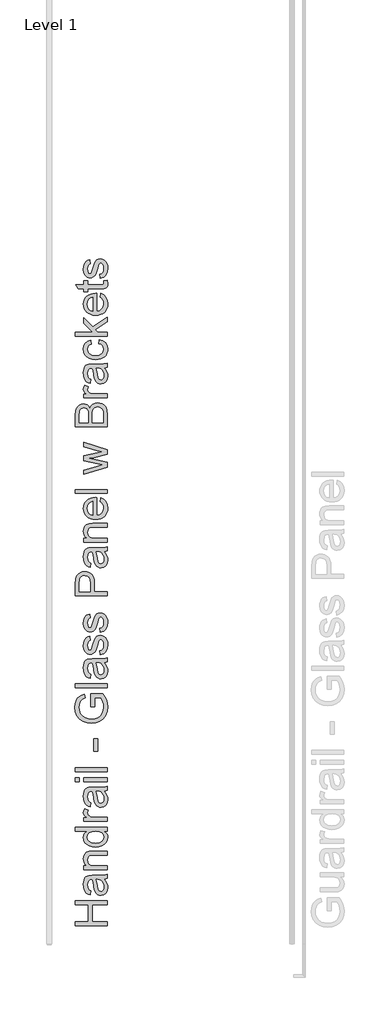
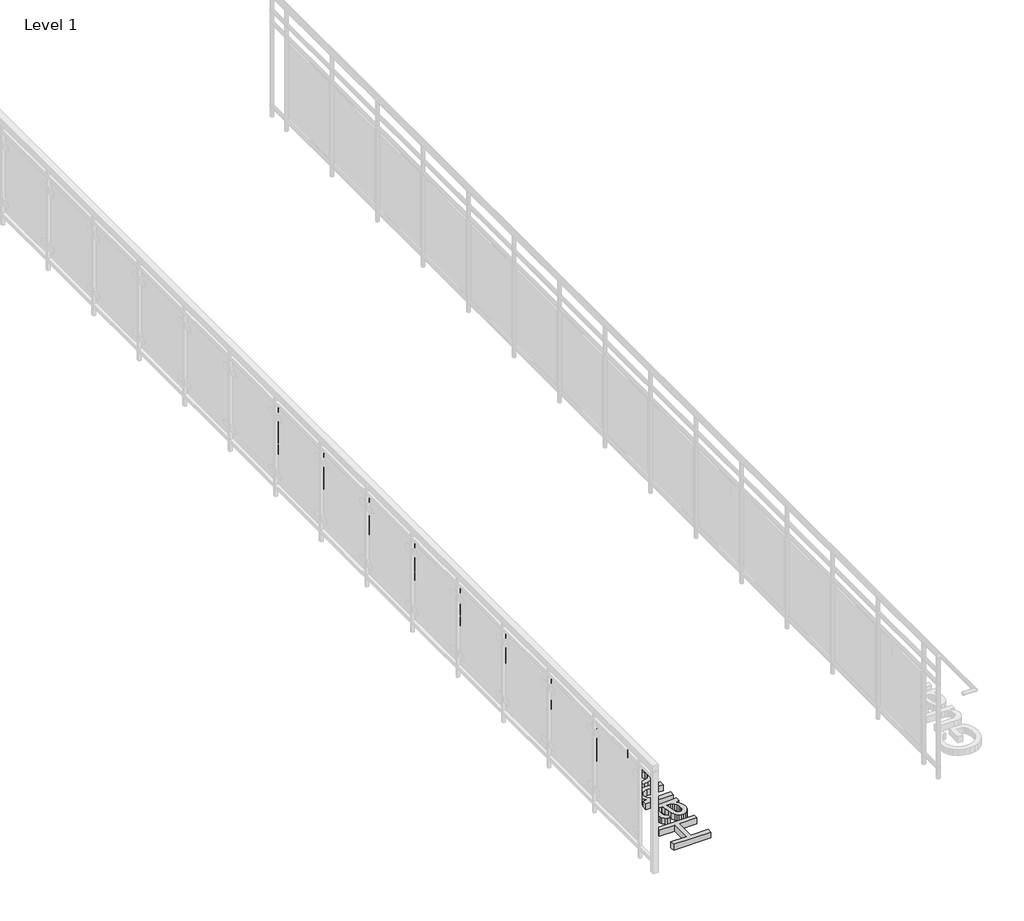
# One storey, part 8 of 14: 1 proxy.
"""IFC4 building model written with IfcOpenShell, lengths in millimetres."""

from ifc_helpers import new_model, si_unit, origin, origin_with_axes, place, context, project, spatial, polyline, outline, extrude, element, save

model = new_model("IFC4")

# Units and contexts
model_context = context("Model", 3, world=origin())
ifc_project = project(units=[si_unit("LENGTHUNIT", "METRE", prefix="MILLI")], contexts=[model_context])

# Site, building, storey
site = spatial("IfcSite", under=ifc_project)
building = spatial("IfcBuilding", under=site)
storey = spatial("IfcBuildingStorey", under=building, Name="Level 1", Elevation=0.0)

# Proxy
placement = place(None, origin())
element("IfcBuildingElementProxy", 1, Name="12\" Arial", ObjectType="12\" Arial", at=placement, inside=storey, context=model_context, shape_type="SweptSolid", body=[
    extrude(outline(polyline([(-14692.5753423, -14491.3688513), (-14992.6861115, -14491.3688513), (-14992.6861115, -14453.8550051), (-14870.7661115, -14453.8550051), (-14870.7661115, -14294.4211589), (-14992.6861115, -14294.4211589), (-14992.6861115, -14256.9073128), (-14692.5753423, -14256.9073128), (-14692.5753423, -14294.4211589), (-14833.2522653, -14294.4211589), (-14833.2522653, -14453.8550051), (-14692.5753423, -14453.8550051), (-14692.5753423, -14491.3688513)])), origin_with_axes(), (0.0, 0.0, 1.0), 50.8),
    extrude(outline(polyline([(-14720.7107269, -14055.2703897), (-14705.3425057, -14073.1938753), (-14695.2863038, -14091.6485628), (-14689.7361596, -14111.0557503), (-14687.8861115, -14131.8367359), (-14692.3372173, -14163.186808), (-14705.6905346, -14186.3124089), (-14725.9677942, -14200.572433), (-14751.1907269, -14205.3257743), (-14766.7421211, -14203.5306782), (-14780.8647653, -14198.1453897), (-14792.9541884, -14189.8384907), (-14802.4059192, -14179.2785628), (-14814.71515, -14153.0115436), (-14820.3568807, -14120.5532743), (-14826.2916884, -14082.196832), (-14833.2522653, -14055.4901974), (-14841.6049576, -14055.2703897), (-14858.3469769, -14057.8531301), (-14869.3007269, -14065.6013513), (-14877.4336115, -14082.9295243), (-14880.144573, -14107.0717359), (-14878.3403182, -14129.4188513), (-14872.9275538, -14145.0251974), (-14862.9171451, -14155.6675532), (-14847.3199576, -14163.1226974), (-14852.0091884, -14200.6365436), (-14872.524573, -14194.1247407), (-14888.6438038, -14184.4074089), (-14900.9713519, -14170.5778416), (-14910.1116884, -14151.729332), (-14915.7717365, -14128.6770003), (-14917.6584192, -14102.2359666), (-14915.9915442, -14076.8756541), (-14910.9909192, -14056.7724089), (-14903.4716644, -14041.6148368), (-14894.2489, -14031.0915436), (-14882.8463759, -14024.1126493), (-14868.7878423, -14019.5882743), (-14835.9632269, -14017.7565436), (-14789.2907269, -14017.7565436), (-14724.1177461, -14015.8515436), (-14692.5753423, -14008.378082), (-14692.5753423, -14045.8919282), (-14720.7107269, -14055.2703897)]), holes=[polyline([(-14795.7384192, -14055.2703897), (-14784.23515, -14115.7907743), (-14778.1538038, -14148.0658705), (-14768.2624576, -14162.683082), (-14753.8284192, -14167.8119282), (-14742.6731788, -14165.0185388), (-14733.5328423, -14156.6383705), (-14727.4331788, -14142.8545964), (-14725.3999576, -14123.8503897), (-14727.6438278, -14103.7013513), (-14734.3754384, -14085.8969282), (-14744.2942605, -14071.4628897), (-14756.0997653, -14061.4250051), (-14768.2624576, -14056.9738993), (-14785.1143807, -14055.4901974), (-14795.7384192, -14055.2703897)])]), origin_with_axes(), (0.0, 0.0, 1.0), 50.8),
    extrude(outline(polyline([(-14692.5753423, -13966.1750051), (-14912.9691884, -13966.1750051), (-14912.9691884, -13928.6611589), (-14882.1961115, -13928.6611589), (-14897.7108711, -13915.6283945), (-14908.7928423, -13899.9762551), (-14915.442025, -13881.7047407), (-14917.6584192, -13860.8138513), (-14915.8724817, -13842.3225291), (-14910.5146692, -13825.3881782), (-14902.2535634, -13811.2655339), (-14891.7577461, -13801.209332), (-14864.1718807, -13789.9625051), (-14827.9036115, -13787.9842359), (-14692.5753423, -13787.9842359), (-14692.5753423, -13825.498082), (-14822.8480346, -13825.498082), (-14856.0389961, -13829.8209666), (-14865.9211836, -13835.8015676), (-14873.5869769, -13845.0976013), (-14878.505174, -13857.0130099), (-14880.144573, -13870.8517359), (-14876.4627942, -13892.8233464), (-14865.4174576, -13911.5527936), (-14856.4007629, -13919.0377034), (-14844.0777942, -13924.3840676), (-14809.5130346, -13928.6611589), (-14692.5753423, -13928.6611589), (-14692.5753423, -13966.1750051)])), origin_with_axes(), (0.0, 0.0, 1.0), 50.8),
    extrude(outline(polyline([(-14692.5753423, -13600.4150051), (-14727.9643807, -13600.4150051), (-14710.4301379, -13611.6389354), (-14697.9056788, -13625.234957), (-14690.3910033, -13641.20307), (-14687.8861115, -13659.5432743), (-14691.5129384, -13683.7953897), (-14702.3934192, -13705.9959666), (-14719.7673855, -13724.7895243), (-14742.8746692, -13738.820582), (-14770.7810875, -13747.5579378), (-14802.5524576, -13750.4703897), (-14833.9300057, -13747.7869041), (-14862.2668807, -13739.7364474), (-14885.9511596, -13726.3281782), (-14903.3709192, -13707.5712551), (-14914.0865442, -13684.8852695), (-14917.6584192, -13659.6898128), (-14915.1031548, -13641.3358705), (-14907.4373615, -13625.1067359), (-14895.6868086, -13611.3504378), (-14880.8772653, -13600.4150051), (-14992.6861115, -13600.4150051), (-14992.6861115, -13562.9011589), (-14692.5753423, -13562.9011589), (-14692.5753423, -13600.4150051)]), holes=[polyline([(-14802.6989961, -13712.9565436), (-14768.7661836, -13708.7252455), (-14744.6331307, -13696.0313513), (-14730.2082509, -13677.5858224), (-14725.3999576, -13656.0996205), (-14729.9884432, -13634.6225772), (-14743.7539, -13616.6441397), (-14766.9527701, -13604.4722888), (-14799.8414961, -13600.4150051), (-14835.7983711, -13604.545558), (-14860.7282269, -13616.9372166), (-14875.2904865, -13635.3735868), (-14880.144573, -13657.6382743), (-14875.4828182, -13679.3442839), (-14861.4975538, -13697.1303897), (-14837.4744048, -13709.0000051), (-14802.6989961, -13712.9565436)])]), origin_with_axes(), (0.0, 0.0, 1.0), 50.8),
    extrude(outline(polyline([(-14692.5753423, -13506.6303897), (-14912.9691884, -13506.6303897), (-14912.9691884, -13473.8057743), (-14880.3643807, -13473.8057743), (-14899.2678423, -13461.6797166), (-14910.4047653, -13450.5061589), (-14915.8450057, -13439.2959666), (-14917.6584192, -13427.0600051), (-14914.7642846, -13408.3763513), (-14906.0818807, -13389.3996205), (-14872.4513038, -13401.9286589), (-14878.2212557, -13415.1171205), (-14880.144573, -13428.305582), (-14878.294525, -13439.5066157), (-14872.7443807, -13449.5170243), (-14863.9154384, -13457.6041157), (-14852.2289961, -13463.0351974), (-14831.2739961, -13467.596207), (-14808.4139961, -13469.1165436), (-14692.5753423, -13469.1165436), (-14692.5753423, -13506.6303897)])), origin_with_axes(), (0.0, 0.0, 1.0), 50.8),
    extrude(outline(polyline([(-14720.7107269, -13225.2765436), (-14705.3425057, -13243.2000291), (-14695.2863038, -13261.6547166), (-14689.7361596, -13281.0619041), (-14687.8861115, -13301.8428897), (-14692.3372173, -13333.1929618), (-14705.6905346, -13356.3185628), (-14725.9677942, -13370.5785868), (-14751.1907269, -13375.3319282), (-14766.7421211, -13373.536832), (-14780.8647653, -13368.1515436), (-14792.9541884, -13359.8446445), (-14802.4059192, -13349.2847166), (-14814.71515, -13323.0176974), (-14820.3568807, -13290.5594282), (-14826.2916884, -13252.2029859), (-14833.2522653, -13225.4963513), (-14841.6049576, -13225.2765436), (-14858.3469769, -13227.8592839), (-14869.3007269, -13235.6075051), (-14877.4336115, -13252.9356782), (-14880.144573, -13277.0778897), (-14878.3403182, -13299.4250051), (-14872.9275538, -13315.0313513), (-14862.9171451, -13325.673707), (-14847.3199576, -13333.1288513), (-14852.0091884, -13370.6426974), (-14872.524573, -13364.1308945), (-14888.6438038, -13354.4135628), (-14900.9713519, -13340.5839955), (-14910.1116884, -13321.7354859), (-14915.7717365, -13298.6831541), (-14917.6584192, -13272.2421205), (-14915.9915442, -13246.881808), (-14910.9909192, -13226.7785628), (-14903.4716644, -13211.6209907), (-14894.2489, -13201.0976974), (-14882.8463759, -13194.1188032), (-14868.7878423, -13189.5944282), (-14835.9632269, -13187.7626974), (-14789.2907269, -13187.7626974), (-14724.1177461, -13185.8576974), (-14692.5753423, -13178.3842359), (-14692.5753423, -13215.898082), (-14720.7107269, -13225.2765436)]), holes=[polyline([(-14795.7384192, -13225.2765436), (-14784.23515, -13285.7969282), (-14778.1538038, -13318.0720243), (-14768.2624576, -13332.6892359), (-14753.8284192, -13337.818082), (-14742.6731788, -13335.0246926), (-14733.5328423, -13326.6445243), (-14727.4331788, -13312.8607503), (-14725.3999576, -13293.8565436), (-14727.6438278, -13273.7075051), (-14734.3754384, -13255.903082), (-14744.2942605, -13241.4690436), (-14756.0997653, -13231.4311589), (-14768.2624576, -13226.9800532), (-14785.1143807, -13225.4963513), (-14795.7384192, -13225.2765436)])]), origin_with_axes(), (0.0, 0.0, 1.0), 50.8),
    extrude(outline(polyline([(-14955.1722653, -13136.1811589), (-14992.6861115, -13136.1811589), (-14992.6861115, -13098.6673128), (-14955.1722653, -13098.6673128), (-14955.1722653, -13136.1811589)])), origin_with_axes(), (0.0, 0.0, 1.0), 50.8),
    extrude(outline(polyline([(-14692.5753423, -13136.1811589), (-14912.9691884, -13136.1811589), (-14912.9691884, -13098.6673128), (-14692.5753423, -13098.6673128), (-14692.5753423, -13136.1811589)])), origin_with_axes(), (0.0, 0.0, 1.0), 50.8),
    extrude(outline(polyline([(-14692.5753423, -13042.3965436), (-14992.6861115, -13042.3965436), (-14992.6861115, -13004.8826974), (-14692.5753423, -13004.8826974), (-14692.5753423, -13042.3965436)])), origin_with_axes(), (0.0, 0.0, 1.0), 50.8),
    extrude(outline(polyline([(-14781.6707269, -12850.138082), (-14819.184573, -12850.138082), (-14819.184573, -12732.9073128), (-14781.6707269, -12732.9073128), (-14781.6707269, -12850.138082)])), origin_with_axes(), (0.0, 0.0, 1.0), 50.8),
    extrude(outline(polyline([(-14809.8061115, -12428.1073128), (-14847.3199576, -12428.1073128), (-14847.3199576, -12306.1873128), (-14735.1447653, -12306.1873128), (-14714.5377942, -12335.815558), (-14699.7557269, -12366.3779859), (-14690.8535153, -12397.8013272), (-14687.8861115, -12430.0123128), (-14692.6028182, -12472.0963272), (-14706.7529384, -12510.1322166), (-14729.8419048, -12541.7295724), (-14761.37515, -12564.4979859), (-14799.2003903, -12578.2634426), (-14841.1653423, -12582.8519282), (-14883.4325298, -12578.2817599), (-14922.7506307, -12564.5712551), (-14955.7309432, -12542.2882503), (-14978.9847653, -12512.000582), (-14992.777698, -12475.1095243), (-14997.3753423, -12433.0163513), (-14994.710174, -12402.1150532), (-14986.7146692, -12374.3276974), (-14973.965823, -12350.9273368), (-14957.0406307, -12333.1870243), (-14935.1239721, -12320.0626734), (-14907.4007269, -12310.5101974), (-14897.6559192, -12345.0932743), (-14917.4294528, -12352.8140195), (-14932.3489, -12362.2016397), (-14943.5957269, -12374.6207743), (-14952.3514, -12391.4360628), (-14957.9839721, -12411.4843561), (-14959.8614961, -12433.6025051), (-14957.8374336, -12459.4940195), (-14951.7652461, -12481.6304859), (-14942.4051019, -12499.9294763), (-14930.5171692, -12514.3085628), (-14901.6124576, -12533.6150051), (-14873.2939, -12542.4073128), (-14842.7039961, -12545.338082), (-14806.829549, -12541.8120003), (-14777.3112076, -12531.2337551), (-14754.3596211, -12513.9238993), (-14738.1854384, -12490.2029859), (-14728.5963278, -12462.4431061), (-14725.3999576, -12433.0163513), (-14727.8086836, -12407.0332503), (-14735.0348615, -12381.6912551), (-14744.9903182, -12359.6830099), (-14755.5868807, -12343.7011589), (-14809.8061115, -12343.7011589), (-14809.8061115, -12428.1073128)])), origin_with_axes(), (0.0, 0.0, 1.0), 50.8),
    extrude(outline(polyline([(-14692.5753423, -12249.9165436), (-14992.6861115, -12249.9165436), (-14992.6861115, -12212.4026974), (-14692.5753423, -12212.4026974), (-14692.5753423, -12249.9165436)])), origin_with_axes(), (0.0, 0.0, 1.0), 50.8),
    extrude(outline(polyline([(-14720.7107269, -12015.4550051), (-14705.3425057, -12033.3784907), (-14695.2863038, -12051.8331782), (-14689.7361596, -12071.2403657), (-14687.8861115, -12092.0213513), (-14692.3372173, -12123.3714234), (-14705.6905346, -12146.4970243), (-14725.9677942, -12160.7570484), (-14751.1907269, -12165.5103897), (-14766.7421211, -12163.7152936), (-14780.8647653, -12158.3300051), (-14792.9541884, -12150.0231061), (-14802.4059192, -12139.4631782), (-14814.71515, -12113.1961589), (-14820.3568807, -12080.7378897), (-14826.2916884, -12042.3814474), (-14833.2522653, -12015.6748128), (-14841.6049576, -12015.4550051), (-14858.3469769, -12018.0377455), (-14869.3007269, -12025.7859666), (-14877.4336115, -12043.1141397), (-14880.144573, -12067.2563513), (-14878.3403182, -12089.6034666), (-14872.9275538, -12105.2098128), (-14862.9171451, -12115.8521686), (-14847.3199576, -12123.3073128), (-14852.0091884, -12160.8211589), (-14872.524573, -12154.3093561), (-14888.6438038, -12144.5920243), (-14900.9713519, -12130.762457), (-14910.1116884, -12111.9139474), (-14915.7717365, -12088.8616157), (-14917.6584192, -12062.420582), (-14915.9915442, -12037.0602695), (-14910.9909192, -12016.9570243), (-14903.4716644, -12001.7994522), (-14894.2489, -11991.2761589), (-14882.8463759, -11984.2972647), (-14868.7878423, -11979.7728897), (-14835.9632269, -11977.9411589), (-14789.2907269, -11977.9411589), (-14724.1177461, -11976.0361589), (-14692.5753423, -11968.5626974), (-14692.5753423, -12006.0765436), (-14720.7107269, -12015.4550051)]), holes=[polyline([(-14795.7384192, -12015.4550051), (-14784.23515, -12075.9753897), (-14778.1538038, -12108.2504859), (-14768.2624576, -12122.8676974), (-14753.8284192, -12127.9965436), (-14742.6731788, -12125.2031541), (-14733.5328423, -12116.8229859), (-14727.4331788, -12103.0392118), (-14725.3999576, -12084.0350051), (-14727.6438278, -12063.8859666), (-14734.3754384, -12046.0815436), (-14744.2942605, -12031.6475051), (-14756.0997653, -12021.6096205), (-14768.2624576, -12017.1585147), (-14785.1143807, -12015.6748128), (-14795.7384192, -12015.4550051)])]), origin_with_axes(), (0.0, 0.0, 1.0), 50.8),
    extrude(outline(polyline([(-14758.224573, -11940.4273128), (-14762.9138038, -11902.9134666), (-14746.8678423, -11896.9969763), (-14735.0714961, -11885.5486589), (-14727.8178423, -11868.4952455), (-14725.3999576, -11845.7634666), (-14727.6163519, -11823.3064474), (-14734.2655346, -11807.5169282), (-14743.9004384, -11798.1751013), (-14755.0739961, -11795.0611589), (-14764.6356307, -11798.1934186), (-14771.9259192, -11807.5901974), (-14782.6232269, -11846.203082), (-14800.9771692, -11902.6936589), (-14810.1999336, -11916.9903176), (-14822.4084192, -11927.3487551), (-14836.8241403, -11933.6407503), (-14852.6686115, -11935.738082), (-14867.2033951, -11934.0528897), (-14880.620823, -11928.9973128), (-14892.3896932, -11921.0292839), (-14901.9788038, -11910.6067359), (-14913.0790923, -11886.7576013), (-14917.6584192, -11854.4825051), (-14915.8175298, -11830.0655339), (-14910.2948615, -11808.8357743), (-14901.630775, -11791.7640436), (-14890.3656307, -11779.8211589), (-14875.6659913, -11771.908082), (-14856.6984192, -11766.9257743), (-14852.0091884, -11804.4396205), (-14863.8146932, -11809.1746445), (-14872.7077461, -11818.5439474), (-14878.2853663, -11832.6391157), (-14880.144573, -11851.5517359), (-14878.3677942, -11873.0928897), (-14873.0374576, -11887.4536589), (-14865.3441884, -11895.5315916), (-14856.4786115, -11898.2242359), (-14845.5614961, -11893.7548128), (-14837.282073, -11879.7603897), (-14829.2957269, -11847.4486589), (-14811.6378423, -11792.386832), (-14803.1935634, -11777.8428897), (-14791.6353423, -11766.8158705), (-14776.9265442, -11759.8644522), (-14759.0305346, -11757.5473128), (-14740.5300538, -11760.267433), (-14723.1286115, -11768.4277936), (-14708.1908471, -11781.7170003), (-14697.0814, -11799.8236589), (-14690.1849336, -11821.6945243), (-14687.8861115, -11846.2763513), (-14692.3189, -11884.1015916), (-14705.6172653, -11911.7057743), (-14727.6346692, -11930.1329859), (-14758.224573, -11940.4273128)])), origin_with_axes(), (0.0, 0.0, 1.0), 50.8),
    extrude(outline(polyline([(-14758.224573, -11729.4119282), (-14762.9138038, -11691.898082), (-14746.8678423, -11685.9815916), (-14735.0714961, -11674.5332743), (-14727.8178423, -11657.4798609), (-14725.3999576, -11634.748082), (-14727.6163519, -11612.2910628), (-14734.2655346, -11596.5015436), (-14743.9004384, -11587.1597166), (-14755.0739961, -11584.0457743), (-14764.6356307, -11587.1780339), (-14771.9259192, -11596.5748128), (-14782.6232269, -11635.1876974), (-14800.9771692, -11691.6782743), (-14810.1999336, -11705.974933), (-14822.4084192, -11716.3333705), (-14836.8241403, -11722.6253657), (-14852.6686115, -11724.7226974), (-14867.2033951, -11723.0375051), (-14880.620823, -11717.9819282), (-14892.3896932, -11710.0138993), (-14901.9788038, -11699.5913513), (-14913.0790923, -11675.7422166), (-14917.6584192, -11643.4671205), (-14915.8175298, -11619.0501493), (-14910.2948615, -11597.8203897), (-14901.630775, -11580.7486589), (-14890.3656307, -11568.8057743), (-14875.6659913, -11560.8926974), (-14856.6984192, -11555.9103897), (-14852.0091884, -11593.4242359), (-14863.8146932, -11598.1592599), (-14872.7077461, -11607.5285628), (-14878.2853663, -11621.6237311), (-14880.144573, -11640.5363513), (-14878.3677942, -11662.0775051), (-14873.0374576, -11676.4382743), (-14865.3441884, -11684.516207), (-14856.4786115, -11687.2088513), (-14845.5614961, -11682.7394282), (-14837.282073, -11668.7450051), (-14829.2957269, -11636.4332743), (-14811.6378423, -11581.3714474), (-14803.1935634, -11566.8275051), (-14791.6353423, -11555.8004859), (-14776.9265442, -11548.8490676), (-14759.0305346, -11546.5319282), (-14740.5300538, -11549.2520484), (-14723.1286115, -11557.4124089), (-14708.1908471, -11570.7016157), (-14697.0814, -11588.8082743), (-14690.1849336, -11610.6791397), (-14687.8861115, -11635.2609666), (-14692.3189, -11673.086207), (-14705.6172653, -11700.6903897), (-14727.6346692, -11719.1176013), (-14758.224573, -11729.4119282)])), origin_with_axes(), (0.0, 0.0, 1.0), 50.8),
    extrude(outline(polyline([(-14692.5753423, -11382.4088513), (-14992.6861115, -11382.4088513), (-14992.6861115, -11271.1861589), (-14989.8286115, -11226.3453897), (-14984.4891163, -11206.3520484), (-14975.7975538, -11189.8939474), (-14963.3601019, -11176.6413753), (-14946.7829384, -11166.2646205), (-14927.2292125, -11159.5604859), (-14905.862073, -11157.3257743), (-14887.4394408, -11158.8346626), (-14870.4913519, -11163.3613272), (-14855.0178062, -11170.9057683), (-14841.0188038, -11181.4679859), (-14829.4147894, -11195.9684246), (-14821.1262076, -11215.3275291), (-14816.1530586, -11239.5452996), (-14814.4953423, -11268.6217359), (-14814.4953423, -11344.8950051), (-14692.5753423, -11344.8950051), (-14692.5753423, -11382.4088513)]), holes=[polyline([(-14852.0091884, -11344.8950051), (-14852.0091884, -11266.4236589), (-14855.4528423, -11233.1594282), (-14865.7838038, -11211.1786589), (-14882.3609673, -11198.9243801), (-14904.5432269, -11194.8396205), (-14921.39515, -11197.2483464), (-14935.6093807, -11204.4745243), (-14946.3066884, -11215.6206061), (-14952.6078423, -11229.7890436), (-14955.1722653, -11267.3028897), (-14955.1722653, -11344.8950051), (-14852.0091884, -11344.8950051)])]), origin_with_axes(), (0.0, 0.0, 1.0), 50.8),
    extrude(outline(polyline([(-14720.7107269, -10969.7565436), (-14705.3425057, -10987.6800291), (-14695.2863038, -11006.1347166), (-14689.7361596, -11025.5419041), (-14687.8861115, -11046.3228897), (-14692.3372173, -11077.6729618), (-14705.6905346, -11100.7985628), (-14725.9677942, -11115.0585868), (-14751.1907269, -11119.8119282), (-14766.7421211, -11118.016832), (-14780.8647653, -11112.6315436), (-14792.9541884, -11104.3246445), (-14802.4059192, -11093.7647166), (-14814.71515, -11067.4976974), (-14820.3568807, -11035.0394282), (-14826.2916884, -10996.6829859), (-14833.2522653, -10969.9763513), (-14841.6049576, -10969.7565436), (-14858.3469769, -10972.3392839), (-14869.3007269, -10980.0875051), (-14877.4336115, -10997.4156782), (-14880.144573, -11021.5578897), (-14878.3403182, -11043.9050051), (-14872.9275538, -11059.5113513), (-14862.9171451, -11070.153707), (-14847.3199576, -11077.6088513), (-14852.0091884, -11115.1226974), (-14872.524573, -11108.6108945), (-14888.6438038, -11098.8935628), (-14900.9713519, -11085.0639955), (-14910.1116884, -11066.2154859), (-14915.7717365, -11043.1631541), (-14917.6584192, -11016.7221205), (-14915.9915442, -10991.361808), (-14910.9909192, -10971.2585628), (-14903.4716644, -10956.1009907), (-14894.2489, -10945.5776974), (-14882.8463759, -10938.5988032), (-14868.7878423, -10934.0744282), (-14835.9632269, -10932.2426974), (-14789.2907269, -10932.2426974), (-14724.1177461, -10930.3376974), (-14692.5753423, -10922.8642359), (-14692.5753423, -10960.378082), (-14720.7107269, -10969.7565436)]), holes=[polyline([(-14795.7384192, -10969.7565436), (-14784.23515, -11030.2769282), (-14778.1538038, -11062.5520243), (-14768.2624576, -11077.1692359), (-14753.8284192, -11082.298082), (-14742.6731788, -11079.5046926), (-14733.5328423, -11071.1245243), (-14727.4331788, -11057.3407503), (-14725.3999576, -11038.3365436), (-14727.6438278, -11018.1875051), (-14734.3754384, -11000.383082), (-14744.2942605, -10985.9490436), (-14756.0997653, -10975.9111589), (-14768.2624576, -10971.4600532), (-14785.1143807, -10969.9763513), (-14795.7384192, -10969.7565436)])]), origin_with_axes(), (0.0, 0.0, 1.0), 50.8),
    extrude(outline(polyline([(-14692.5753423, -10880.6611589), (-14912.9691884, -10880.6611589), (-14912.9691884, -10843.1473128), (-14882.1961115, -10843.1473128), (-14897.7108711, -10830.1145484), (-14908.7928423, -10814.4624089), (-14915.442025, -10796.1908945), (-14917.6584192, -10775.3000051), (-14915.8724817, -10756.808683), (-14910.5146692, -10739.874332), (-14902.2535634, -10725.7516878), (-14891.7577461, -10715.6954859), (-14864.1718807, -10704.4486589), (-14827.9036115, -10702.4703897), (-14692.5753423, -10702.4703897), (-14692.5753423, -10739.9842359), (-14822.8480346, -10739.9842359), (-14856.0389961, -10744.3071205), (-14865.9211836, -10750.2877214), (-14873.5869769, -10759.5837551), (-14878.505174, -10771.4991638), (-14880.144573, -10785.3378897), (-14876.4627942, -10807.3095003), (-14865.4174576, -10826.0389474), (-14856.4007629, -10833.5238573), (-14844.0777942, -10838.8702214), (-14809.5130346, -10843.1473128), (-14692.5753423, -10843.1473128), (-14692.5753423, -10880.6611589)])), origin_with_axes(), (0.0, 0.0, 1.0), 50.8),
    extrude(outline(polyline([(-14758.224573, -10496.5838513), (-14753.5353423, -10459.8026974), (-14725.8212557, -10473.0552695), (-14705.1043807, -10494.2026013), (-14692.1906788, -10522.7684426), (-14687.8861115, -10558.2765436), (-14689.7430286, -10581.5532623), (-14695.3137798, -10602.2930339), (-14704.5983651, -10620.4958585), (-14717.5967846, -10636.1617359), (-14733.9472713, -10648.7594642), (-14753.2880586, -10657.7578416), (-14775.6191463, -10663.1568681), (-14800.9405346, -10664.9565436), (-14827.1205466, -10663.1385508), (-14850.195775, -10657.6845724), (-14870.1662197, -10648.5946085), (-14887.0318807, -10635.8686589), (-14900.4309913, -10620.2439955), (-14910.0017846, -10602.4578897), (-14915.7442605, -10582.5103416), (-14917.6584192, -10560.4013513), (-14915.7488399, -10539.0044462), (-14910.0201019, -10519.6545003), (-14900.4722052, -10502.3515135), (-14887.10515, -10487.0954859), (-14870.2761235, -10474.6420063), (-14850.3423134, -10465.7466638), (-14827.3037197, -10460.4094582), (-14801.1603423, -10458.6303897), (-14791.0491884, -10458.8501974), (-14791.0491884, -10627.4426974), (-14762.9687557, -10620.9492118), (-14742.32515, -10605.8649089), (-14729.6312557, -10584.0947888), (-14725.3999576, -10557.5438513), (-14727.3599096, -10537.5779859), (-14733.2397653, -10520.7626974), (-14743.4058711, -10507.0979859), (-14758.224573, -10496.5838513)]), holes=[polyline([(-14828.5630346, -10627.4426974), (-14828.5630346, -10496.1442359), (-14848.3823615, -10501.2181301), (-14862.5599576, -10511.1644282), (-14875.7484192, -10533.0352936), (-14880.144573, -10560.5478897), (-14876.6368086, -10585.834933), (-14866.1135153, -10606.7441397), (-14849.7103663, -10621.2789234), (-14828.5630346, -10627.4426974)])]), origin_with_axes(), (0.0, 0.0, 1.0), 50.8),
    extrude(outline(polyline([(-14692.5753423, -10421.1165436), (-14992.6861115, -10421.1165436), (-14992.6861115, -10383.6026974), (-14692.5753423, -10383.6026974), (-14692.5753423, -10421.1165436)])), origin_with_axes(), (0.0, 0.0, 1.0), 50.8),
    extrude(outline(polyline([(-14692.5753423, -10173.5398128), (-14912.9691884, -10240.5811589), (-14912.9691884, -10201.6019282), (-14784.3816884, -10163.5751974), (-14738.4418807, -10152.2184666), (-14782.6964961, -10142.9132743), (-14912.9691884, -10112.653082), (-14912.9691884, -10067.9588513), (-14783.0628423, -10037.8451974), (-14742.984573, -10029.5657743), (-14785.2609192, -10017.6961589), (-14912.9691884, -9979.5961589), (-14912.9691884, -9940.4703897), (-14692.5753423, -10008.0246205), (-14692.5753423, -10053.3782743), (-14821.8222653, -10082.173082), (-14862.1203423, -10090.5257743), (-14692.5753423, -10127.6732743), (-14692.5753423, -10173.5398128)])), origin_with_axes(), (0.0, 0.0, 1.0), 50.8),
    extrude(outline(polyline([(-14692.5753423, -9792.7596205), (-14992.6861115, -9792.7596205), (-14992.6861115, -9678.2398128), (-14990.4788759, -9646.7432022), (-14983.8571692, -9622.1522166), (-14972.6561355, -9603.303707), (-14956.7109192, -9589.0345243), (-14937.9539961, -9580.0498849), (-14918.3178423, -9577.0550051), (-14900.2478182, -9579.5736349), (-14883.2585153, -9587.1295243), (-14868.3940201, -9599.7776253), (-14856.6984192, -9617.5728897), (-14845.5981307, -9596.3156541), (-14828.709573, -9580.6085628), (-14807.1501019, -9570.9095484), (-14782.037073, -9567.6765436), (-14761.109549, -9569.8837791), (-14741.7023615, -9576.5054859), (-14725.1984673, -9586.3876734), (-14712.980823, -9598.3763513), (-14704.1335634, -9613.0576734), (-14697.740823, -9631.0177936), (-14692.5753423, -9679.1190436), (-14692.5753423, -9792.7596205)]), holes=[polyline([(-14870.7661115, -9755.2457743), (-14870.7661115, -9686.7390436), (-14873.9899576, -9646.7340436), (-14879.5492605, -9632.7304618), (-14887.8744769, -9622.6651013), (-14898.8373855, -9616.5929138), (-14912.3097653, -9614.5688513), (-14925.388323, -9616.4555339), (-14936.7816884, -9622.115582), (-14945.6747413, -9631.2925532), (-14951.2523615, -9643.7300051), (-14955.1722653, -9691.9411589), (-14955.1722653, -9755.2457743), (-14870.7661115, -9755.2457743)]), polyline([(-14730.0891884, -9755.2457743), (-14730.0891884, -9678.313082), (-14731.554573, -9650.4707743), (-14739.7240923, -9626.9147166), (-14756.3928423, -9611.3083705), (-14768.1708711, -9606.7198849), (-14781.6707269, -9605.1903897), (-14797.3503423, -9606.9854859), (-14810.8318807, -9612.3707743), (-14821.3734913, -9621.7767118), (-14828.233323, -9635.6337551), (-14831.9975298, -9655.2607503), (-14833.2522653, -9681.9765436), (-14833.2522653, -9755.2457743), (-14730.0891884, -9755.2457743)])]), origin_with_axes(), (0.0, 0.0, 1.0), 50.8),
    extrude(outline(polyline([(-14692.5753423, -9520.7842359), (-14912.9691884, -9520.7842359), (-14912.9691884, -9487.9596205), (-14880.3643807, -9487.9596205), (-14899.2678423, -9475.8335628), (-14910.4047653, -9464.6600051), (-14915.8450057, -9453.4498128), (-14917.6584192, -9441.2138513), (-14914.7642846, -9422.5301974), (-14906.0818807, -9403.5534666), (-14872.4513038, -9416.0825051), (-14878.2212557, -9429.2709666), (-14880.144573, -9442.4594282), (-14878.294525, -9453.6604618), (-14872.7443807, -9463.6708705), (-14863.9154384, -9471.7579618), (-14852.2289961, -9477.1890436), (-14831.2739961, -9481.7500532), (-14808.4139961, -9483.2703897), (-14692.5753423, -9483.2703897), (-14692.5753423, -9520.7842359)])), origin_with_axes(), (0.0, 0.0, 1.0), 50.8),
    extrude(outline(polyline([(-14720.7107269, -9239.4303897), (-14705.3425057, -9257.3538753), (-14695.2863038, -9275.8085628), (-14689.7361596, -9295.2157503), (-14687.8861115, -9315.9967359), (-14692.3372173, -9347.346808), (-14705.6905346, -9370.4724089), (-14725.9677942, -9384.732433), (-14751.1907269, -9389.4857743), (-14766.7421211, -9387.6906782), (-14780.8647653, -9382.3053897), (-14792.9541884, -9373.9984907), (-14802.4059192, -9363.4385628), (-14814.71515, -9337.1715436), (-14820.3568807, -9304.7132743), (-14826.2916884, -9266.356832), (-14833.2522653, -9239.6501974), (-14841.6049576, -9239.4303897), (-14858.3469769, -9242.0131301), (-14869.3007269, -9249.7613513), (-14877.4336115, -9267.0895243), (-14880.144573, -9291.2317359), (-14878.3403182, -9313.5788513), (-14872.9275538, -9329.1851974), (-14862.9171451, -9339.8275532), (-14847.3199576, -9347.2826974), (-14852.0091884, -9384.7965436), (-14872.524573, -9378.2847407), (-14888.6438038, -9368.5674089), (-14900.9713519, -9354.7378416), (-14910.1116884, -9335.889332), (-14915.7717365, -9312.8370003), (-14917.6584192, -9286.3959666), (-14915.9915442, -9261.0356541), (-14910.9909192, -9240.9324089), (-14903.4716644, -9225.7748368), (-14894.2489, -9215.2515436), (-14882.8463759, -9208.2726493), (-14868.7878423, -9203.7482743), (-14835.9632269, -9201.9165436), (-14789.2907269, -9201.9165436), (-14724.1177461, -9200.0115436), (-14692.5753423, -9192.538082), (-14692.5753423, -9230.0519282), (-14720.7107269, -9239.4303897)]), holes=[polyline([(-14795.7384192, -9239.4303897), (-14784.23515, -9299.9507743), (-14778.1538038, -9332.2258705), (-14768.2624576, -9346.843082), (-14753.8284192, -9351.9719282), (-14742.6731788, -9349.1785388), (-14733.5328423, -9340.7983705), (-14727.4331788, -9327.0145964), (-14725.3999576, -9308.0103897), (-14727.6438278, -9287.8613513), (-14734.3754384, -9270.0569282), (-14744.2942605, -9255.6228897), (-14756.0997653, -9245.5850051), (-14768.2624576, -9241.1338993), (-14785.1143807, -9239.6501974), (-14795.7384192, -9239.4303897)])]), origin_with_axes(), (0.0, 0.0, 1.0), 50.8),
    extrude(outline(polyline([(-14772.2922653, -9009.658082), (-14767.6030346, -8972.1442359), (-14734.2380586, -8982.6034186), (-14709.0242846, -9002.2578897), (-14693.1706548, -9029.2576013), (-14687.8861115, -9061.7525051), (-14689.7292906, -9082.7922226), (-14695.2588278, -9101.6567599), (-14704.4747233, -9118.3461169), (-14717.3769769, -9132.8602936), (-14733.7228843, -9144.6085568), (-14753.2697413, -9153.0001734), (-14776.0175478, -9158.0351433), (-14801.9663038, -9159.7134666), (-14835.3495971, -9156.846808), (-14864.2817846, -9148.246832), (-14887.6455105, -9133.7761589), (-14904.3234192, -9113.2974089), (-14914.3246692, -9088.7980099), (-14917.6584192, -9062.2653897), (-14913.0790923, -9030.5672888), (-14899.3411115, -9005.2252936), (-14877.1771692, -8987.0453657), (-14847.3199576, -8976.8334666), (-14842.6307269, -9014.3473128), (-14858.9972413, -9021.1521926), (-14870.7294769, -9031.7487551), (-14877.790799, -9045.5508464), (-14880.144573, -9061.9723128), (-14875.5102942, -9086.2152695), (-14861.6074576, -9105.4576013), (-14837.6850538, -9118.0141157), (-14802.992073, -9122.1996205), (-14767.8320009, -9118.1057022), (-14743.8271692, -9105.8239474), (-14730.0067605, -9086.9296445), (-14725.3999576, -9062.998082), (-14728.275775, -9043.5725772), (-14736.9032269, -9027.6456782), (-14751.5021211, -9016.0599811), (-14772.2922653, -9009.658082)])), origin_with_axes(), (0.0, 0.0, 1.0), 50.8),
    extrude(outline(polyline([(-14692.5753423, -8939.3196205), (-14992.6861115, -8939.3196205), (-14992.6861115, -8901.8057743), (-14831.4205346, -8901.8057743), (-14912.9691884, -8817.6926974), (-14912.9691884, -8765.818082), (-14830.3947653, -8850.9569282), (-14692.5753423, -8761.1288513), (-14692.5753423, -8804.9438513), (-14804.3109192, -8877.8467359), (-14781.084573, -8901.8057743), (-14692.5753423, -8901.8057743), (-14692.5753423, -8939.3196205)])), origin_with_axes(), (0.0, 0.0, 1.0), 50.8),
    extrude(outline(polyline([(-14758.224573, -8573.9992359), (-14753.5353423, -8537.218082), (-14725.8212557, -8550.4706541), (-14705.1043807, -8571.6179859), (-14692.1906788, -8600.1838272), (-14687.8861115, -8635.6919282), (-14689.7430286, -8658.9686469), (-14695.3137798, -8679.7084186), (-14704.5983651, -8697.9112431), (-14717.5967846, -8713.5771205), (-14733.9472713, -8726.1748489), (-14753.2880586, -8735.1732263), (-14775.6191463, -8740.5722527), (-14800.9405346, -8742.3719282), (-14827.1205466, -8740.5539354), (-14850.195775, -8735.099957), (-14870.1662197, -8726.0099931), (-14887.0318807, -8713.2840436), (-14900.4309913, -8697.6593801), (-14910.0017846, -8679.8732743), (-14915.7442605, -8659.9257263), (-14917.6584192, -8637.8167359), (-14915.7488399, -8616.4198308), (-14910.0201019, -8597.0698849), (-14900.4722052, -8579.7668981), (-14887.10515, -8564.5108705), (-14870.2761235, -8552.0573909), (-14850.3423134, -8543.1620484), (-14827.3037197, -8537.8248428), (-14801.1603423, -8536.0457743), (-14791.0491884, -8536.265582), (-14791.0491884, -8704.858082), (-14762.9687557, -8698.3645964), (-14742.32515, -8683.2802936), (-14729.6312557, -8661.5101734), (-14725.3999576, -8634.9592359), (-14727.3599096, -8614.9933705), (-14733.2397653, -8598.178082), (-14743.4058711, -8584.5133705), (-14758.224573, -8573.9992359)]), holes=[polyline([(-14828.5630346, -8704.858082), (-14828.5630346, -8573.5596205), (-14848.3823615, -8578.6335147), (-14862.5599576, -8588.5798128), (-14875.7484192, -8610.4506782), (-14880.144573, -8637.9632743), (-14876.6368086, -8663.2503176), (-14866.1135153, -8684.1595243), (-14849.7103663, -8698.694308), (-14828.5630346, -8704.858082)])]), origin_with_axes(), (0.0, 0.0, 1.0), 50.8),
    extrude(outline(polyline([(-14723.8613038, -8418.8150051), (-14691.4763038, -8414.1257743), (-14687.8861115, -8442.1878897), (-14689.4430826, -8460.1938032), (-14694.1139961, -8473.6203897), (-14701.312698, -8483.1087551), (-14710.4530346, -8489.3000051), (-14726.1509673, -8492.7070243), (-14753.0224576, -8493.8426974), (-14875.4553423, -8493.8426974), (-14875.4553423, -8521.978082), (-14912.9691884, -8521.978082), (-14912.9691884, -8493.8426974), (-14966.5289961, -8493.8426974), (-14988.5830346, -8456.3288513), (-14912.9691884, -8456.3288513), (-14912.9691884, -8418.8150051), (-14875.4553423, -8418.8150051), (-14875.4553423, -8456.3288513), (-14754.1214961, -8456.3288513), (-14734.7784192, -8454.350582), (-14727.9277461, -8447.9395243), (-14725.3999576, -8435.1540436), (-14723.8613038, -8418.8150051)])), origin_with_axes(), (0.0, 0.0, 1.0), 50.8),
    extrude(outline(polyline([(-14758.224573, -8395.3688513), (-14762.9138038, -8357.8550051), (-14746.8678423, -8351.9385147), (-14735.0714961, -8340.4901974), (-14727.8178423, -8323.4367839), (-14725.3999576, -8300.7050051), (-14727.6163519, -8278.2479859), (-14734.2655346, -8262.4584666), (-14743.9004384, -8253.1166397), (-14755.0739961, -8250.0026974), (-14764.6356307, -8253.134957), (-14771.9259192, -8262.5317359), (-14782.6232269, -8301.1446205), (-14800.9771692, -8357.6351974), (-14810.1999336, -8371.9318561), (-14822.4084192, -8382.2902936), (-14836.8241403, -8388.5822888), (-14852.6686115, -8390.6796205), (-14867.2033951, -8388.9944282), (-14880.620823, -8383.9388513), (-14892.3896932, -8375.9708224), (-14901.9788038, -8365.5482743), (-14913.0790923, -8341.6991397), (-14917.6584192, -8309.4240436), (-14915.8175298, -8285.0070724), (-14910.2948615, -8263.7773128), (-14901.630775, -8246.705582), (-14890.3656307, -8234.7626974), (-14875.6659913, -8226.8496205), (-14856.6984192, -8221.8673128), (-14852.0091884, -8259.3811589), (-14863.8146932, -8264.116183), (-14872.7077461, -8273.4854859), (-14878.2853663, -8287.5806541), (-14880.144573, -8306.4932743), (-14878.3677942, -8328.0344282), (-14873.0374576, -8342.3951974), (-14865.3441884, -8350.4731301), (-14856.4786115, -8353.1657743), (-14845.5614961, -8348.6963513), (-14837.282073, -8334.7019282), (-14829.2957269, -8302.3901974), (-14811.6378423, -8247.3283705), (-14803.1935634, -8232.7844282), (-14791.6353423, -8221.7574089), (-14776.9265442, -8214.8059907), (-14759.0305346, -8212.4888513), (-14740.5300538, -8215.2089714), (-14723.1286115, -8223.369332), (-14708.1908471, -8236.6585388), (-14697.0814, -8254.7651974), (-14690.1849336, -8276.6360628), (-14687.8861115, -8301.2178897), (-14692.3189, -8339.0431301), (-14705.6172653, -8366.6473128), (-14727.6346692, -8385.0745243), (-14758.224573, -8395.3688513)])), origin_with_axes(), (0.0, 0.0, 1.0), 50.8),
])

save(model, "model.ifc")
